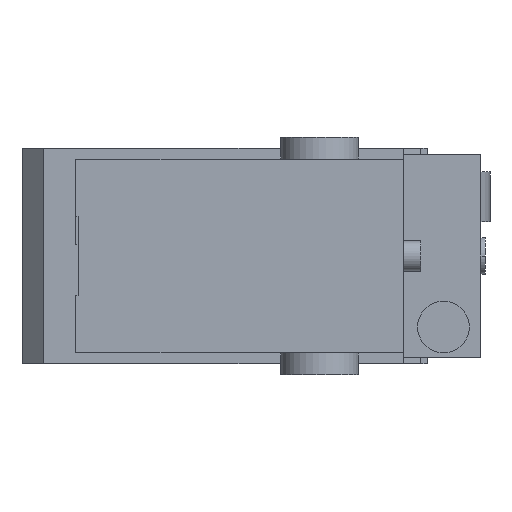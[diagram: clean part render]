
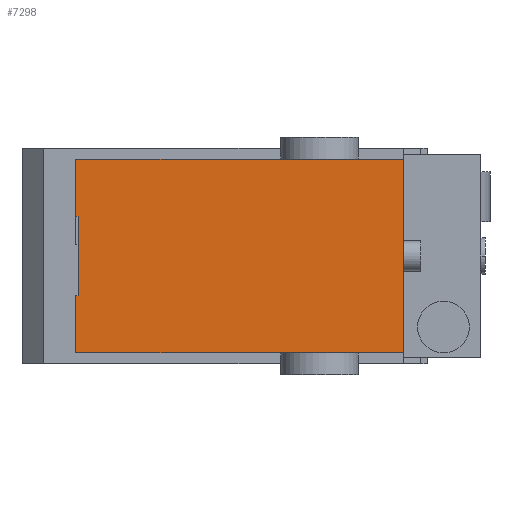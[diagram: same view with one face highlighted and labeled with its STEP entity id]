
A CAD part, front view. The second image highlights one B-rep face of the part: STEP entity #7298.
In plain terms, the highlighted planar face has unit normal (0, -1, 0).
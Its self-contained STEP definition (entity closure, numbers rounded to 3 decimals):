
#247 = LINE ( 'NONE', #2538, #4905 ) ;
#321 = DIRECTION ( 'NONE',  ( 0., 0., 1. ) ) ;
#449 = AXIS2_PLACEMENT_3D ( 'NONE', #5113, #2160, #9069 ) ;
#759 = VERTEX_POINT ( 'NONE', #10580 ) ;
#763 = EDGE_CURVE ( 'NONE', #759, #11395, #9360, .T. ) ;
#1316 = EDGE_CURVE ( 'NONE', #2152, #9448, #10712, .T. ) ;
#1637 = CARTESIAN_POINT ( 'NONE',  ( 41.5, -185.5, 22.5 ) ) ;
#2152 = VERTEX_POINT ( 'NONE', #2485 ) ;
#2160 = DIRECTION ( 'NONE',  ( 0., 1., 0. ) ) ;
#2384 = EDGE_CURVE ( 'NONE', #12031, #9886, #8251, .T. ) ;
#2485 = CARTESIAN_POINT ( 'NONE',  ( -34., -185.5, -9.25 ) ) ;
#2538 = CARTESIAN_POINT ( 'NONE',  ( 41.5, -185.5, -22.5 ) ) ;
#2638 = EDGE_CURVE ( 'NONE', #9886, #11385, #10369, .T. ) ;
#2639 = EDGE_CURVE ( 'NONE', #11385, #2152, #2827, .T. ) ;
#2827 = LINE ( 'NONE', #6442, #12545 ) ;
#2869 = VECTOR ( 'NONE', #321, 1000. ) ;
#3407 = CARTESIAN_POINT ( 'NONE',  ( -34.5, -185.5, 9.25 ) ) ;
#3461 = DIRECTION ( 'NONE',  ( 0., 0., 1. ) ) ;
#3558 = DIRECTION ( 'NONE',  ( 0., 0., -1. ) ) ;
#3709 = ORIENTED_EDGE ( 'NONE', *, *, #2639, .F. ) ;
#4013 = LINE ( 'NONE', #3407, #8645 ) ;
#4073 = ORIENTED_EDGE ( 'NONE', *, *, #763, .F. ) ;
#4456 = CARTESIAN_POINT ( 'NONE',  ( -34.5, -185.5, -22.5 ) ) ;
#4472 = ORIENTED_EDGE ( 'NONE', *, *, #2638, .F. ) ;
#4594 = CARTESIAN_POINT ( 'NONE',  ( -34.5, -185.5, -9.25 ) ) ;
#4905 = VECTOR ( 'NONE', #3558, 1000. ) ;
#5034 = VECTOR ( 'NONE', #3461, 1000. ) ;
#5054 = CARTESIAN_POINT ( 'NONE',  ( -34., -185.5, 9.25 ) ) ;
#5113 = CARTESIAN_POINT ( 'NONE',  ( 3.5, -185.5, 0. ) ) ;
#5629 = LINE ( 'NONE', #5853, #10505 ) ;
#5853 = CARTESIAN_POINT ( 'NONE',  ( -34.5, -185.5, 9.25 ) ) ;
#6442 = CARTESIAN_POINT ( 'NONE',  ( -34.5, -185.5, -9.25 ) ) ;
#6453 = VECTOR ( 'NONE', #6951, 1000. ) ;
#6951 = DIRECTION ( 'NONE',  ( 1., 0., 0. ) ) ;
#6979 = CARTESIAN_POINT ( 'NONE',  ( -34.5, -185.5, -22.5 ) ) ;
#7048 = EDGE_LOOP ( 'NONE', ( #4472, #8241, #10470, #4073, #7972, #9885, #8746, #3709 ) ) ;
#7298 = ADVANCED_FACE ( 'NONE', ( #11270 ), #8074, .F. ) ;
#7425 = DIRECTION ( 'NONE',  ( 1., 0., 0. ) ) ;
#7599 = EDGE_CURVE ( 'NONE', #9448, #10743, #5629, .T. ) ;
#7675 = CARTESIAN_POINT ( 'NONE',  ( -34., -185.5, -9.25 ) ) ;
#7722 = CARTESIAN_POINT ( 'NONE',  ( -34.5, -185.5, -22.5 ) ) ;
#7914 = DIRECTION ( 'NONE',  ( -1., 0., 0. ) ) ;
#7946 = VECTOR ( 'NONE', #7914, 1000. ) ;
#7972 = ORIENTED_EDGE ( 'NONE', *, *, #9619, .F. ) ;
#8074 = PLANE ( 'NONE',  #449 ) ;
#8241 = ORIENTED_EDGE ( 'NONE', *, *, #2384, .F. ) ;
#8251 = LINE ( 'NONE', #6979, #7946 ) ;
#8260 = CARTESIAN_POINT ( 'NONE',  ( -34.5, -185.5, 9.25 ) ) ;
#8500 = CARTESIAN_POINT ( 'NONE',  ( -34.5, -185.5, 22.5 ) ) ;
#8645 = VECTOR ( 'NONE', #10264, 1000. ) ;
#8746 = ORIENTED_EDGE ( 'NONE', *, *, #1316, .F. ) ;
#9069 = DIRECTION ( 'NONE',  ( 0., 0., 1. ) ) ;
#9360 = LINE ( 'NONE', #8500, #6453 ) ;
#9448 = VERTEX_POINT ( 'NONE', #5054 ) ;
#9619 = EDGE_CURVE ( 'NONE', #10743, #759, #4013, .T. ) ;
#9885 = ORIENTED_EDGE ( 'NONE', *, *, #7599, .F. ) ;
#9886 = VERTEX_POINT ( 'NONE', #7722 ) ;
#10264 = DIRECTION ( 'NONE',  ( 0., 0., 1. ) ) ;
#10369 = LINE ( 'NONE', #4456, #5034 ) ;
#10470 = ORIENTED_EDGE ( 'NONE', *, *, #11361, .F. ) ;
#10505 = VECTOR ( 'NONE', #12688, 1000. ) ;
#10580 = CARTESIAN_POINT ( 'NONE',  ( -34.5, -185.5, 22.5 ) ) ;
#10712 = LINE ( 'NONE', #7675, #2869 ) ;
#10743 = VERTEX_POINT ( 'NONE', #8260 ) ;
#11270 = FACE_OUTER_BOUND ( 'NONE', #7048, .T. ) ;
#11361 = EDGE_CURVE ( 'NONE', #11395, #12031, #247, .T. ) ;
#11385 = VERTEX_POINT ( 'NONE', #4594 ) ;
#11395 = VERTEX_POINT ( 'NONE', #1637 ) ;
#12031 = VERTEX_POINT ( 'NONE', #12469 ) ;
#12469 = CARTESIAN_POINT ( 'NONE',  ( 41.5, -185.5, -22.5 ) ) ;
#12545 = VECTOR ( 'NONE', #7425, 1000. ) ;
#12688 = DIRECTION ( 'NONE',  ( -1., 0., 0. ) ) ;
